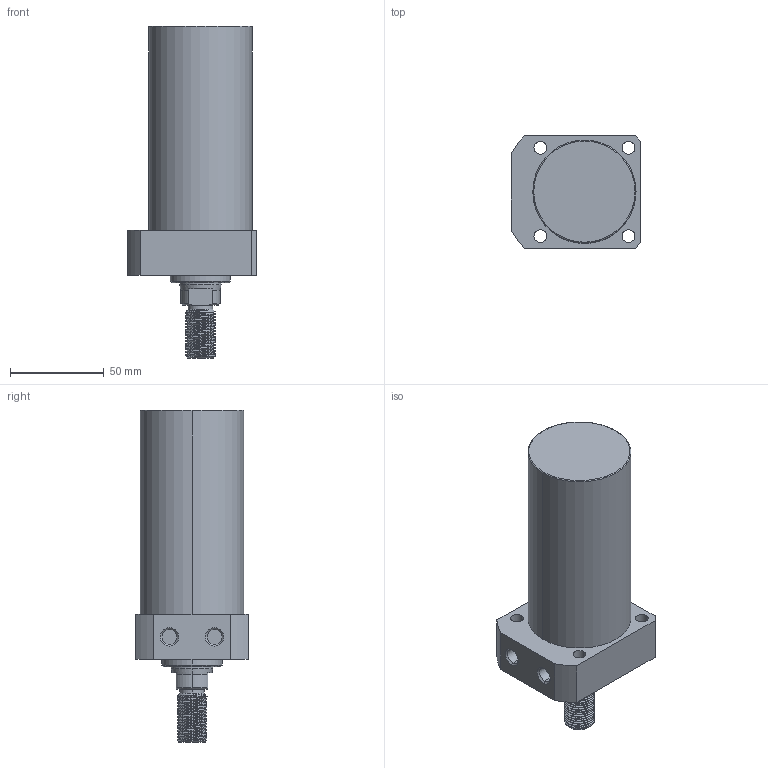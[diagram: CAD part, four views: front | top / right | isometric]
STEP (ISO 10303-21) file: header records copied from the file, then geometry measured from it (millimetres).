
FILE_DESCRIPTION (( 'STEP AP214' ), '1' );
FILE_NAME ('CLLR-055CT-080.STEP', '2020-01-10T00:46:34', ( 'Windows' ), ( 'Microsoft' ), 'SwSTEP 2.0', 'SolidWorks 2015', '' );
FILE_SCHEMA (( 'AUTOMOTIVE_DESIGN' ));
Length unit declared in the file: millimetre
Products named in the file (1): CLLR-055CT-080
Bounding box: 69 x 60 x 177 mm (x, y, z)
Volume: 363695.6 mm3; surface area: 38644.4 mm2
Topology: 1 solids, 1 shells, 101 faces, 259 edges, 168 vertices
Faces by surface type: cylinder 62, plane 20, cone 15, torus 2, bspline 2
Entity records: 5051 total; most frequent: CARTESIAN_POINT 2661, ORIENTED_EDGE 518, DIRECTION 458, EDGE_CURVE 259, AXIS2_PLACEMENT_3D 180, VERTEX_POINT 168, EDGE_LOOP 117, ADVANCED_FACE 101
